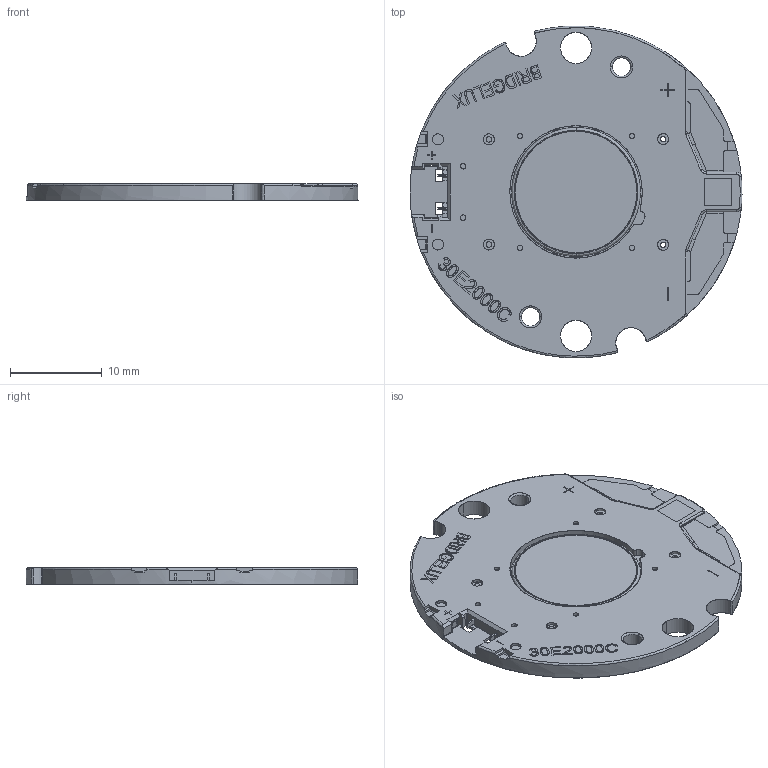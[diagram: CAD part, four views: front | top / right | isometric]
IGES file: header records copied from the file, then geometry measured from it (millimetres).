
Start section: SolidWorks IGES file using analytic representation for surfaces
Global section: file name: D:\Users\5160206\Desktop\3D document\GEN8\Assembly\Vero13\Vero\GEN8 Vero13.IGS; native system: SolidWorks 2018; preprocessor: SolidWorks 2018; author: 5160206; date: 200912.162042; units: millimetre
Bounding box: 36.2 x 36.19 x 1.8 mm (x, y, z)
Surface area: 3007.8 mm2 (no closed solid volume)
Topology: 0 solids, 0 shells, 1131 faces, 11066 edges, 11055 vertices
Faces by surface type: bspline 742, revolution 389
